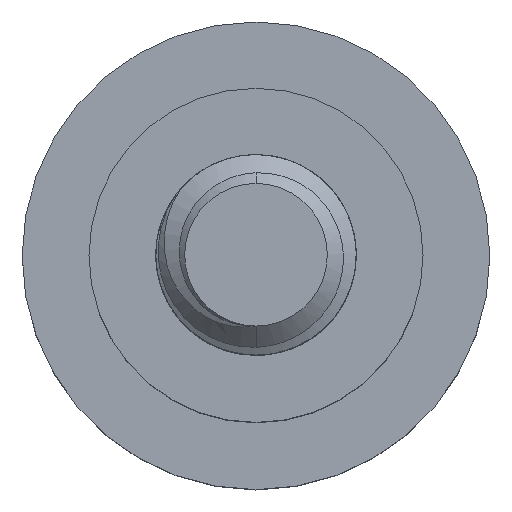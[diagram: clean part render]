
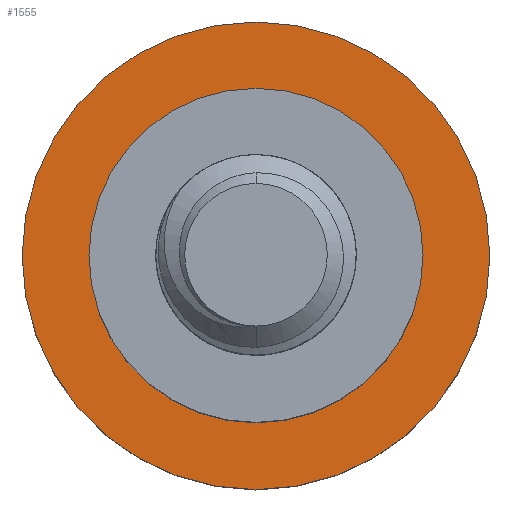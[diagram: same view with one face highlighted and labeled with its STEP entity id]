
A CAD part, top view. The second image highlights one B-rep face of the part: STEP entity #1555.
In plain terms, the highlighted planar face has unit normal (0, 0, 1).
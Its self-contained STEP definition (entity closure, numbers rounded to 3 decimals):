
#39 = ORIENTED_EDGE ( 'NONE', *, *, #492, .F. ) ;
#51 = AXIS2_PLACEMENT_3D ( 'NONE', #3912, #1604, #4264 ) ;
#492 = EDGE_CURVE ( 'NONE', #3394, #1794, #3282, .T. ) ;
#535 = FACE_BOUND ( 'NONE', #3008, .T. ) ;
#1003 = AXIS2_PLACEMENT_3D ( 'NONE', #3031, #1364, #3074 ) ;
#1160 = AXIS2_PLACEMENT_3D ( 'NONE', #3252, #4199, #3212 ) ;
#1301 = CIRCLE ( 'NONE', #51, 7. ) ;
#1364 = DIRECTION ( 'NONE',  ( 0., 0., -1. ) ) ;
#1372 = ORIENTED_EDGE ( 'NONE', *, *, #2298, .T. ) ;
#1464 = ORIENTED_EDGE ( 'NONE', *, *, #3927, .F. ) ;
#1509 = CIRCLE ( 'NONE', #1972, 5. ) ;
#1521 = CARTESIAN_POINT ( 'NONE',  ( -7., 0., -8. ) ) ;
#1555 = ADVANCED_FACE ( 'NONE', ( #535, #2913 ), #3508, .F. ) ;
#1567 = VERTEX_POINT ( 'NONE', #3547 ) ;
#1604 = DIRECTION ( 'NONE',  ( 0., 0., -1. ) ) ;
#1640 = CARTESIAN_POINT ( 'NONE',  ( 7., 0., -8. ) ) ;
#1693 = CARTESIAN_POINT ( 'NONE',  ( -5., 0., -8. ) ) ;
#1794 = VERTEX_POINT ( 'NONE', #1521 ) ;
#1824 = CARTESIAN_POINT ( 'NONE',  ( 0., 0., -8. ) ) ;
#1972 = AXIS2_PLACEMENT_3D ( 'NONE', #3883, #2566, #2873 ) ;
#2036 = CIRCLE ( 'NONE', #1160, 5. ) ;
#2298 = EDGE_CURVE ( 'NONE', #3568, #1567, #2036, .T. ) ;
#2384 = ORIENTED_EDGE ( 'NONE', *, *, #2950, .T. ) ;
#2566 = DIRECTION ( 'NONE',  ( 0., 0., -1. ) ) ;
#2873 = DIRECTION ( 'NONE',  ( -1., 0., 0. ) ) ;
#2913 = FACE_OUTER_BOUND ( 'NONE', #3922, .T. ) ;
#2950 = EDGE_CURVE ( 'NONE', #1567, #3568, #1509, .T. ) ;
#3008 = EDGE_LOOP ( 'NONE', ( #1372, #2384 ) ) ;
#3031 = CARTESIAN_POINT ( 'NONE',  ( 0., 0., -8. ) ) ;
#3074 = DIRECTION ( 'NONE',  ( -1., 0., 0. ) ) ;
#3174 = DIRECTION ( 'NONE',  ( 0., 0., -1. ) ) ;
#3194 = DIRECTION ( 'NONE',  ( -1., 0., 0. ) ) ;
#3212 = DIRECTION ( 'NONE',  ( -1., 0., 0. ) ) ;
#3252 = CARTESIAN_POINT ( 'NONE',  ( 0., 0., -8. ) ) ;
#3282 = CIRCLE ( 'NONE', #1003, 7. ) ;
#3394 = VERTEX_POINT ( 'NONE', #1640 ) ;
#3508 = PLANE ( 'NONE',  #3917 ) ;
#3547 = CARTESIAN_POINT ( 'NONE',  ( 5., 0., -8. ) ) ;
#3568 = VERTEX_POINT ( 'NONE', #1693 ) ;
#3883 = CARTESIAN_POINT ( 'NONE',  ( 0., 0., -8. ) ) ;
#3912 = CARTESIAN_POINT ( 'NONE',  ( 0., 0., -8. ) ) ;
#3917 = AXIS2_PLACEMENT_3D ( 'NONE', #1824, #3174, #3194 ) ;
#3922 = EDGE_LOOP ( 'NONE', ( #39, #1464 ) ) ;
#3927 = EDGE_CURVE ( 'NONE', #1794, #3394, #1301, .T. ) ;
#4199 = DIRECTION ( 'NONE',  ( 0., 0., -1. ) ) ;
#4264 = DIRECTION ( 'NONE',  ( -1., 0., 0. ) ) ;
